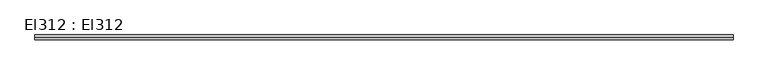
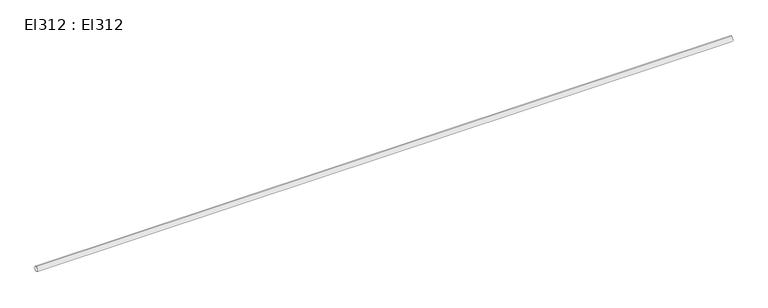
"""IFC4 building model written with IfcOpenShell, lengths in millimetres: cable carrier segment geometry, El312 : El312."""

from ifc_helpers import new_model, si_unit, point, frame, frame_2d, origin, place, context, project, spatial, circle_curve, trimmed, segment, composite_curve, outline, extrude, source, transform, mapped, element, save


def el312_el312_3cb22f07(model_context):
    return source(origin(), model_context, "Body", "SweptSolid", [
        extrude(outline(composite_curve([segment(trimmed(circle_curve(frame_2d((12388.71761, 2950.0)), 9.5), [point((12388.71761, 2940.5))], [point((12388.71761, 2959.5))], False, "CARTESIAN"), True, "CONTINUOUS"), segment(trimmed(circle_curve(frame_2d((12388.71761, 2950.0)), 9.5), [point((12388.71761, 2959.5))], [point((12388.71761, 2940.5))], False, "CARTESIAN"), True, "CONTINUOUS")], self_intersect=False)), frame((25006.1, 0.0, 0.0), z_axis=(1.0, 0.0, 0.0), x_axis=(0.0, 1.0, 0.0)), (0.0, 0.0, 1.0), 2600.0),
    ])


if __name__ == "__main__":
    model = new_model("IFC4")
    model_context = context("Model", 3, world=origin())
    ifc_project = project(units=[si_unit("LENGTHUNIT", "METRE", prefix="MILLI")], contexts=[model_context])
    site = spatial("IfcSite", under=ifc_project)
    building = spatial("IfcBuilding", under=site)
    placement = place(None, origin())
    el312_el312_shape = el312_el312_3cb22f07(model_context)
    element("IfcCableCarrierSegment", 1, ObjectType="El312 : El312", at=placement, inside=building, context=model_context, shape_type="MappedRepresentation", body=[
        mapped(el312_el312_shape, transform((0.0, 0.0, 0.0), x_axis=(1.0, 0.0, 0.0), y_axis=(0.0, 1.0, 0.0), z_axis=(0.0, 0.0, 1.0))),
    ])
    save(model, "model.ifc")
